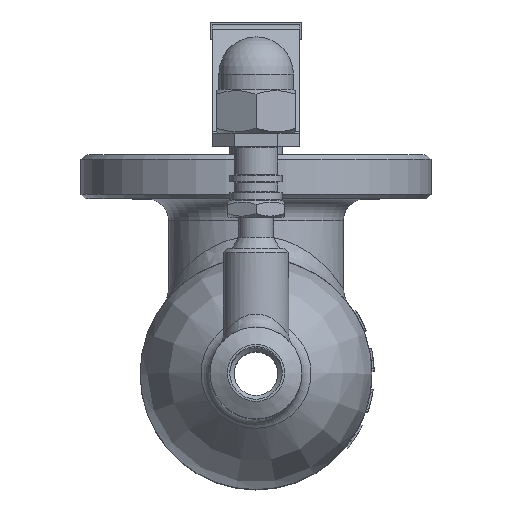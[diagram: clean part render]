
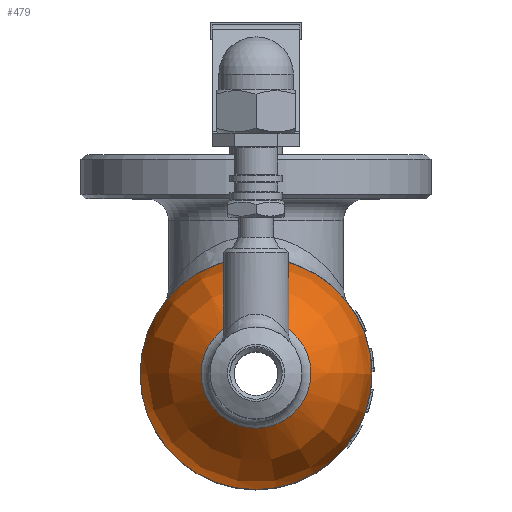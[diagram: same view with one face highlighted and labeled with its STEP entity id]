
A CAD part, top view. The second image highlights one B-rep face of the part: STEP entity #479.
In plain terms, the highlighted face is a revolution surface.
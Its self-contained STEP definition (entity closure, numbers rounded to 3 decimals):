
#479=ADVANCED_FACE('',(#2787,#2789),#2791,.T.);
#2787=FACE_OUTER_BOUND('',#2788,.T.);
#2788=EDGE_LOOP('',(#24353));
#2789=FACE_BOUND('',#2790,.T.);
#2790=EDGE_LOOP('',(#24354,#24355));
#2791=SURFACE_OF_REVOLUTION('',#2792,#2793);
#2792=(BOUNDED_CURVE()B_SPLINE_CURVE(3,
(#24356,#24357,#24358,#24359),
.UNSPECIFIED.,.F.,.F.)B_SPLINE_CURVE_WITH_KNOTS((4,4),
(0.,1.),
.UNSPECIFIED.)CURVE()GEOMETRIC_REPRESENTATION_ITEM()RATIONAL_B_SPLINE_CURVE((1.,
0.928,0.928,1.))REPRESENTATION_ITEM(''));
#2793=AXIS1_PLACEMENT('',#2794,#2795);
#2794=CARTESIAN_POINT('',(0.,0.,28.5));
#2795=DIRECTION('',(0.,0.,1.));
#24353=ORIENTED_EDGE('',*,*,#30419,.T.);
#24354=ORIENTED_EDGE('',*,*,#30696,.T.);
#24355=ORIENTED_EDGE('',*,*,#30697,.T.);
#24356=CARTESIAN_POINT('',(26.5,0.,28.5));
#24357=CARTESIAN_POINT('',(26.5,0.,39.611));
#24358=CARTESIAN_POINT('',(21.486,0.,49.526));
#24359=CARTESIAN_POINT('',(12.537,0.,56.111));
#30419=EDGE_CURVE('',#32845,#32845,#32846,.T.);
#30696=EDGE_CURVE('',#33399,#33400,#33401,.T.);
#30697=EDGE_CURVE('',#33400,#33399,#33402,.T.);
#32845=VERTEX_POINT('',#43119);
#32846=CIRCLE('',#43120,26.5);
#33399=VERTEX_POINT('',#51853);
#33400=VERTEX_POINT('',#51854);
#33401=CIRCLE('',#51855,12.537);
#33402=CIRCLE('',#51859,12.537);
#43119=CARTESIAN_POINT('',(26.5,0.,28.5));
#43120=AXIS2_PLACEMENT_3D('',#43121,#43122,#43123);
#43121=CARTESIAN_POINT('',(0.,0.,28.5));
#43122=DIRECTION('',(0.,0.,1.));
#43123=DIRECTION('',(1.,0.,0.));
#51853=CARTESIAN_POINT('',(12.537,0.,56.111));
#51854=CARTESIAN_POINT('',(-12.537,0.,56.111));
#51855=AXIS2_PLACEMENT_3D('',#51856,#51857,#51858);
#51856=CARTESIAN_POINT('',(0.,0.,56.111));
#51857=DIRECTION('',(0.,0.,-1.));
#51858=DIRECTION('',(1.,0.,0.));
#51859=AXIS2_PLACEMENT_3D('',#51860,#51861,#51862);
#51860=CARTESIAN_POINT('',(0.,0.,56.111));
#51861=DIRECTION('',(0.,0.,-1.));
#51862=DIRECTION('',(-1.,0.,0.));
